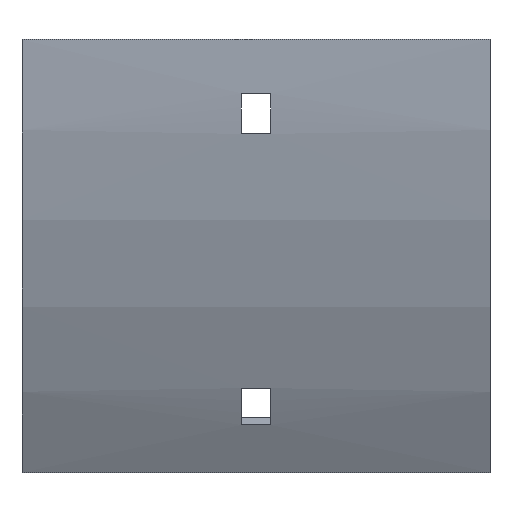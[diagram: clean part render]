
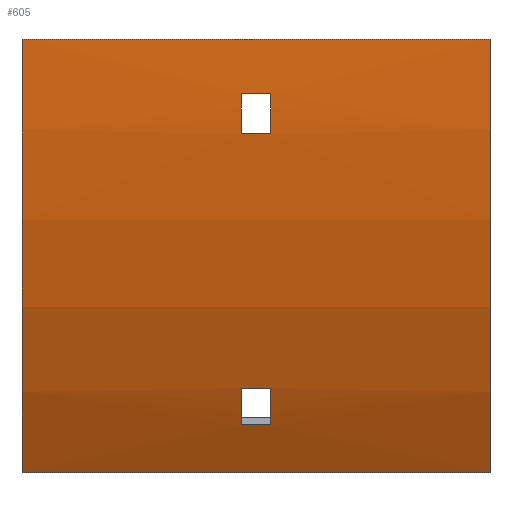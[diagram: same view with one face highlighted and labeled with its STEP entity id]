
A CAD part, front view. The second image highlights one B-rep face of the part: STEP entity #605.
In plain terms, the highlighted cylindrical face has radius 192.5 mm (diameter 385 mm), a partial arc.
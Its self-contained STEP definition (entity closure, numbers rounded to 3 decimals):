
#24 = VECTOR ( 'NONE', #1153, 1000. ) ;
#28 = DIRECTION ( 'NONE',  ( 0., 0., -1. ) ) ;
#55 = VERTEX_POINT ( 'NONE', #1250 ) ;
#60 = ORIENTED_EDGE ( 'NONE', *, *, #805, .F. ) ;
#75 = EDGE_CURVE ( 'NONE', #1228, #1600, #1020, .T. ) ;
#83 = CYLINDRICAL_SURFACE ( 'NONE', #1537, 192.5 ) ;
#103 = CARTESIAN_POINT ( 'NONE',  ( -52., 100., 0. ) ) ;
#109 = EDGE_CURVE ( 'NONE', #708, #1640, #1198, .T. ) ;
#133 = CARTESIAN_POINT ( 'NONE',  ( -3.25, -76.215, -77.489 ) ) ;
#166 = DIRECTION ( 'NONE',  ( -1., 0., 0. ) ) ;
#201 = CARTESIAN_POINT ( 'NONE',  ( -52., -92.5, 0. ) ) ;
#249 = DIRECTION ( 'NONE',  ( 0., 0., -1. ) ) ;
#251 = CIRCLE ( 'NONE', #474, 192.5 ) ;
#261 = VERTEX_POINT ( 'NONE', #1200 ) ;
#265 = CARTESIAN_POINT ( 'NONE',  ( -3.25, 100., 0. ) ) ;
#274 = VERTEX_POINT ( 'NONE', #1065 ) ;
#278 = ORIENTED_EDGE ( 'NONE', *, *, #109, .T. ) ;
#302 = DIRECTION ( 'NONE',  ( -1., 0., 0. ) ) ;
#328 = DIRECTION ( 'NONE',  ( -1., 0., 0. ) ) ;
#388 = CARTESIAN_POINT ( 'NONE',  ( 52., -92.126, -12. ) ) ;
#393 = ORIENTED_EDGE ( 'NONE', *, *, #75, .F. ) ;
#424 = CARTESIAN_POINT ( 'NONE',  ( -3.25, 100., 0. ) ) ;
#430 = CARTESIAN_POINT ( 'NONE',  ( 3.25, 100., 0. ) ) ;
#468 = LINE ( 'NONE', #1396, #694 ) ;
#474 = AXIS2_PLACEMENT_3D ( 'NONE', #265, #1314, #634 ) ;
#488 = DIRECTION ( 'NONE',  ( 0., 0., 1. ) ) ;
#525 = CARTESIAN_POINT ( 'NONE',  ( -3.25, -72.386, -85.671 ) ) ;
#539 = DIRECTION ( 'NONE',  ( 1., 0., 0. ) ) ;
#543 = VERTEX_POINT ( 'NONE', #773 ) ;
#555 = DIRECTION ( 'NONE',  ( 1., 0., 0. ) ) ;
#560 = LINE ( 'NONE', #1527, #640 ) ;
#594 = FACE_BOUND ( 'NONE', #866, .T. ) ;
#596 = CARTESIAN_POINT ( 'NONE',  ( 3.25, -92.126, -12. ) ) ;
#603 = DIRECTION ( 'NONE',  ( -1., 0., 0. ) ) ;
#605 = ADVANCED_FACE ( 'NONE', ( #885, #594, #1266 ), #83, .T. ) ;
#634 = DIRECTION ( 'NONE',  ( 0., 0., 1. ) ) ;
#640 = VECTOR ( 'NONE', #888, 1000. ) ;
#665 = VERTEX_POINT ( 'NONE', #1157 ) ;
#694 = VECTOR ( 'NONE', #1144, 1000. ) ;
#707 = EDGE_LOOP ( 'NONE', ( #278, #1311, #1196, #830 ) ) ;
#708 = VERTEX_POINT ( 'NONE', #201 ) ;
#750 = VECTOR ( 'NONE', #328, 1000. ) ;
#764 = CARTESIAN_POINT ( 'NONE',  ( 3.25, -76.215, -77.489 ) ) ;
#770 = LINE ( 'NONE', #1288, #750 ) ;
#773 = CARTESIAN_POINT ( 'NONE',  ( 3.25, -91.351, -21. ) ) ;
#775 = DIRECTION ( 'NONE',  ( 1., 0., 0. ) ) ;
#787 = EDGE_CURVE ( 'NONE', #274, #708, #560, .T. ) ;
#805 = EDGE_CURVE ( 'NONE', #838, #261, #468, .T. ) ;
#809 = CIRCLE ( 'NONE', #1322, 192.5 ) ;
#830 = ORIENTED_EDGE ( 'NONE', *, *, #787, .T. ) ;
#832 = DIRECTION ( 'NONE',  ( 0., 0., 1. ) ) ;
#838 = VERTEX_POINT ( 'NONE', #525 ) ;
#848 = LINE ( 'NONE', #1485, #1101 ) ;
#853 = EDGE_CURVE ( 'NONE', #1324, #1098, #1584, .T. ) ;
#866 = EDGE_LOOP ( 'NONE', ( #1455, #1327, #1590, #1376 ) ) ;
#872 = EDGE_CURVE ( 'NONE', #274, #665, #1491, .T. ) ;
#874 = CARTESIAN_POINT ( 'NONE',  ( 52., 100., 0. ) ) ;
#885 = FACE_OUTER_BOUND ( 'NONE', #707, .T. ) ;
#888 = DIRECTION ( 'NONE',  ( -1., 0., 0. ) ) ;
#889 = DIRECTION ( 'NONE',  ( 0., 0., -1. ) ) ;
#906 = CARTESIAN_POINT ( 'NONE',  ( 52., 100., 0. ) ) ;
#955 = CARTESIAN_POINT ( 'NONE',  ( 3.25, 100., 0. ) ) ;
#1020 = LINE ( 'NONE', #1158, #24 ) ;
#1065 = CARTESIAN_POINT ( 'NONE',  ( 52., -92.5, 0. ) ) ;
#1098 = VERTEX_POINT ( 'NONE', #596 ) ;
#1101 = VECTOR ( 'NONE', #166, 1000. ) ;
#1129 = CIRCLE ( 'NONE', #1479, 192.5 ) ;
#1134 = EDGE_CURVE ( 'NONE', #55, #1324, #251, .T. ) ;
#1138 = AXIS2_PLACEMENT_3D ( 'NONE', #906, #539, #249 ) ;
#1144 = DIRECTION ( 'NONE',  ( 1., 0., 0. ) ) ;
#1153 = DIRECTION ( 'NONE',  ( -1., 0., 0. ) ) ;
#1157 = CARTESIAN_POINT ( 'NONE',  ( 52., -66.71, -96.25 ) ) ;
#1158 = CARTESIAN_POINT ( 'NONE',  ( 52., -76.215, -77.489 ) ) ;
#1196 = ORIENTED_EDGE ( 'NONE', *, *, #872, .F. ) ;
#1198 = CIRCLE ( 'NONE', #1638, 192.5 ) ;
#1200 = CARTESIAN_POINT ( 'NONE',  ( 3.25, -72.386, -85.671 ) ) ;
#1228 = VERTEX_POINT ( 'NONE', #764 ) ;
#1250 = CARTESIAN_POINT ( 'NONE',  ( -3.25, -91.351, -21. ) ) ;
#1253 = ORIENTED_EDGE ( 'NONE', *, *, #1643, .F. ) ;
#1266 = FACE_BOUND ( 'NONE', #1353, .T. ) ;
#1288 = CARTESIAN_POINT ( 'NONE',  ( 52., -66.71, -96.25 ) ) ;
#1296 = EDGE_CURVE ( 'NONE', #1098, #543, #809, .T. ) ;
#1311 = ORIENTED_EDGE ( 'NONE', *, *, #1466, .F. ) ;
#1314 = DIRECTION ( 'NONE',  ( -1., 0., 0. ) ) ;
#1322 = AXIS2_PLACEMENT_3D ( 'NONE', #955, #555, #1329 ) ;
#1324 = VERTEX_POINT ( 'NONE', #1594 ) ;
#1327 = ORIENTED_EDGE ( 'NONE', *, *, #1134, .T. ) ;
#1329 = DIRECTION ( 'NONE',  ( 0., 0., -1. ) ) ;
#1335 = CARTESIAN_POINT ( 'NONE',  ( -52., -66.71, -96.25 ) ) ;
#1353 = EDGE_LOOP ( 'NONE', ( #1253, #393, #1383, #60 ) ) ;
#1361 = EDGE_CURVE ( 'NONE', #261, #1228, #1460, .T. ) ;
#1376 = ORIENTED_EDGE ( 'NONE', *, *, #1296, .T. ) ;
#1383 = ORIENTED_EDGE ( 'NONE', *, *, #1361, .F. ) ;
#1396 = CARTESIAN_POINT ( 'NONE',  ( 52., -72.386, -85.671 ) ) ;
#1437 = DIRECTION ( 'NONE',  ( 1., 0., 0. ) ) ;
#1455 = ORIENTED_EDGE ( 'NONE', *, *, #1691, .T. ) ;
#1460 = CIRCLE ( 'NONE', #1572, 192.5 ) ;
#1466 = EDGE_CURVE ( 'NONE', #665, #1640, #770, .T. ) ;
#1479 = AXIS2_PLACEMENT_3D ( 'NONE', #424, #1437, #28 ) ;
#1485 = CARTESIAN_POINT ( 'NONE',  ( 52., -91.351, -21. ) ) ;
#1491 = CIRCLE ( 'NONE', #1138, 192.5 ) ;
#1527 = CARTESIAN_POINT ( 'NONE',  ( 52., -92.5, 0. ) ) ;
#1537 = AXIS2_PLACEMENT_3D ( 'NONE', #874, #603, #488 ) ;
#1572 = AXIS2_PLACEMENT_3D ( 'NONE', #430, #302, #832 ) ;
#1584 = LINE ( 'NONE', #388, #1603 ) ;
#1590 = ORIENTED_EDGE ( 'NONE', *, *, #853, .T. ) ;
#1594 = CARTESIAN_POINT ( 'NONE',  ( -3.25, -92.126, -12. ) ) ;
#1600 = VERTEX_POINT ( 'NONE', #133 ) ;
#1603 = VECTOR ( 'NONE', #775, 1000. ) ;
#1638 = AXIS2_PLACEMENT_3D ( 'NONE', #103, #1672, #889 ) ;
#1640 = VERTEX_POINT ( 'NONE', #1335 ) ;
#1643 = EDGE_CURVE ( 'NONE', #1600, #838, #1129, .T. ) ;
#1672 = DIRECTION ( 'NONE',  ( 1., 0., 0. ) ) ;
#1691 = EDGE_CURVE ( 'NONE', #543, #55, #848, .T. ) ;
